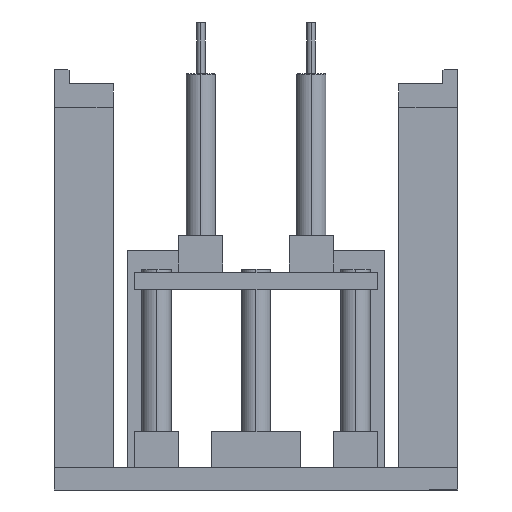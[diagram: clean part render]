
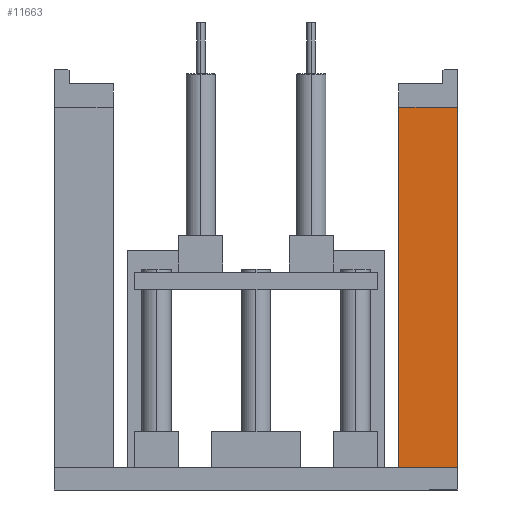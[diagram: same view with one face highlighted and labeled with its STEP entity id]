
A CAD part, left-side view. The second image highlights one B-rep face of the part: STEP entity #11663.
In plain terms, the highlighted planar face has unit normal (-1, 0, 0) as drawn and (0, 1, 0) by its records, which use the part's own axes.
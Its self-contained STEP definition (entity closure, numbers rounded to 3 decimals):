
#11598=CARTESIAN_POINT('Line Origine',(1061.074,-315.,186.038)) ;
#11602=CARTESIAN_POINT('Vertex',(1061.074,-315.,63.538)) ;
#11604=CARTESIAN_POINT('Vertex',(1061.074,-315.,308.538)) ;
#11633=CARTESIAN_POINT('Axis2P3D Location',(1061.074,-315.,196.538)) ;
#11638=CARTESIAN_POINT('Line Origine',(1101.074,-315.,186.038)) ;
#11642=CARTESIAN_POINT('Vertex',(1101.074,-315.,63.538)) ;
#11644=CARTESIAN_POINT('Vertex',(1101.074,-315.,308.538)) ;
#11647=CARTESIAN_POINT('Line Origine',(1081.074,-315.,63.538)) ;
#11652=CARTESIAN_POINT('Line Origine',(1081.074,-315.,308.538)) ;
#11599=DIRECTION('Vector Direction',(0.,0.,1.)) ;
#11634=DIRECTION('Axis2P3D Direction',(0.,-1.,0.)) ;
#11635=DIRECTION('Axis2P3D XDirection',(1.,0.,0.)) ;
#11639=DIRECTION('Vector Direction',(0.,0.,1.)) ;
#11648=DIRECTION('Vector Direction',(1.,0.,0.)) ;
#11653=DIRECTION('Vector Direction',(1.,0.,0.)) ;
#11636=AXIS2_PLACEMENT_3D('Plane Axis2P3D',#11633,#11634,#11635) ;
#11658=ORIENTED_EDGE('',*,*,#11646,.F.) ;
#11659=ORIENTED_EDGE('',*,*,#11651,.T.) ;
#11660=ORIENTED_EDGE('',*,*,#11606,.T.) ;
#11661=ORIENTED_EDGE('',*,*,#11656,.F.) ;
#11600=VECTOR('Line Direction',#11599,1.) ;
#11640=VECTOR('Line Direction',#11639,1.) ;
#11649=VECTOR('Line Direction',#11648,1.) ;
#11654=VECTOR('Line Direction',#11653,1.) ;
#11663=ADVANCED_FACE('\X2\96F64EF651E04F554F53\X0\',(#11662),#11637,.F.) ;
#11606=EDGE_CURVE('',#11603,#11605,#11601,.T.) ;
#11646=EDGE_CURVE('',#11643,#11645,#11641,.T.) ;
#11651=EDGE_CURVE('',#11643,#11603,#11650,.F.) ;
#11656=EDGE_CURVE('',#11645,#11605,#11655,.F.) ;
#11657=EDGE_LOOP('',(#11658,#11659,#11660,#11661)) ;
#11662=FACE_OUTER_BOUND('',#11657,.T.) ;
#11601=LINE('Line',#11598,#11600) ;
#11641=LINE('Line',#11638,#11640) ;
#11650=LINE('Line',#11647,#11649) ;
#11655=LINE('Line',#11652,#11654) ;
#11637=PLANE('',#11636) ;
#11603=VERTEX_POINT('',#11602) ;
#11605=VERTEX_POINT('',#11604) ;
#11643=VERTEX_POINT('',#11642) ;
#11645=VERTEX_POINT('',#11644) ;
